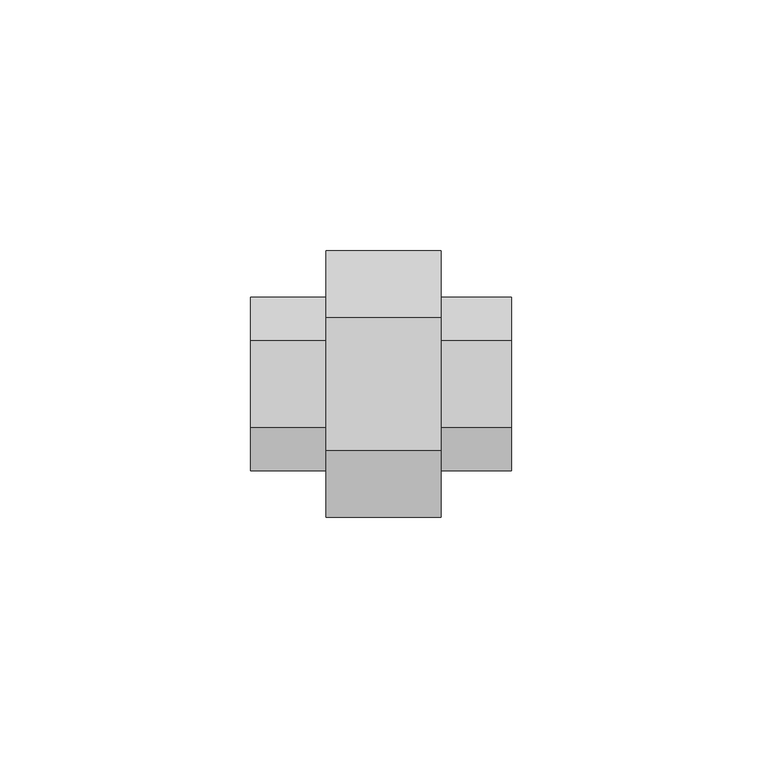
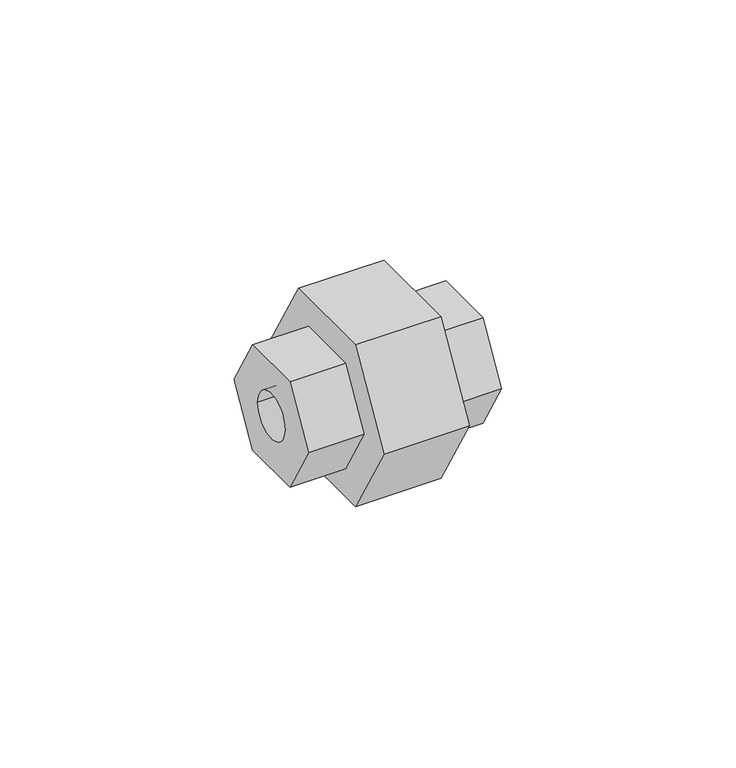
"""IFC4 building model written with IfcOpenShell, lengths in millimetres: pipe fitting geometry, 01011014 : Enlace 3 piezas."""

from ifc_helpers import new_model, si_unit, frame, origin, place, context, project, spatial, polyline, circle_curve, source, transform, mapped, element, save
from ifc_brep_helpers import plane_surface, revolved_surface, advanced_brep


def pipe_fitting_819bcc75(model_context):
    return source(origin(), model_context, "Body", "AdvancedBrep", [
        advanced_brep(
        [(14.0, -13.2790562, 23.0), (14.0, -26.5581124, 0.0), (14.0, -13.2790562, -23.0), (14.0, 13.2790562, -23.0), (14.0, 26.5581124, 0.0), (14.0, 13.2790562, 23.0), (14.0, -8.660254, 15.0), (14.0, 8.660254, 15.0), (14.0, 17.3205081, 0.0), (14.0, 8.660254, -15.0), (14.0, -8.660254, -15.0), (14.0, -17.3205081, 0.0), (-9.0, -13.2790562, 23.0), (-9.0, 13.2790562, 23.0), (-9.0, 26.5581124, 0.0), (-9.0, 13.2790562, -23.0), (-9.0, -13.2790562, -23.0), (-9.0, -26.5581124, 0.0), (-9.0, 8.660254, 15.0), (-9.0, -8.660254, 15.0), (-9.0, -17.3205081, 0.0), (-9.0, -8.660254, -15.0), (-9.0, 8.660254, -15.0), (-9.0, 17.3205081, 0.0), (-24.0, -8.660254, 15.0), (-24.0, 8.660254, 15.0), (-24.0, 17.3205081, 0.0), (-24.0, 8.660254, -15.0), (-24.0, -8.660254, -15.0), (-24.0, -17.3205081, 0.0), (-24.0, -6.35, 0.0), (-24.0, 6.35, 0.0), (28.0, -8.660254, 15.0), (28.0, -17.3205081, 0.0), (28.0, -8.660254, -15.0), (28.0, 8.660254, -15.0), (28.0, 17.3205081, 0.0), (28.0, 8.660254, 15.0), (28.0, 6.35, 0.0), (28.0, -6.35, 0.0)],
        [
            (0, 1),
            (1, 2),
            (2, 3),
            (3, 4),
            (4, 5),
            (5, 0),
            (6, 7),
            (7, 8),
            (8, 9),
            (9, 10),
            (10, 11),
            (11, 6),
            (12, 13),
            (13, 14),
            (14, 15),
            (15, 16),
            (16, 17),
            (17, 12),
            (18, 19),
            (19, 20),
            (20, 21),
            (21, 22),
            (22, 23),
            (23, 18),
            (0, 12),
            (17, 1),
            (16, 2),
            (15, 3),
            (14, 4),
            (13, 5),
            (24, 25),
            (25, 26),
            (26, 27),
            (27, 28),
            (28, 29),
            (29, 24),
            (30, 31, circle_curve(frame((-24.0, 0.0, 0.0), z_axis=(1.0, 0.0, 0.0), x_axis=(0.0, 1.0, 0.0)), 6.35)),
            (31, 30, circle_curve(frame((-24.0, 0.0, 0.0), z_axis=(1.0, 0.0, 0.0), x_axis=(0.0, 1.0, 0.0)), 6.35)),
            (32, 33),
            (33, 34),
            (34, 35),
            (35, 36),
            (36, 37),
            (37, 32),
            (38, 39, circle_curve(frame((28.0, 0.0, 0.0), z_axis=(-1.0, 0.0, 0.0), x_axis=(0.0, 1.0, 0.0)), 6.35)),
            (39, 38, circle_curve(frame((28.0, 0.0, 0.0), z_axis=(-1.0, 0.0, 0.0), x_axis=(0.0, 1.0, 0.0)), 6.35)),
            (24, 19),
            (18, 25),
            (37, 7),
            (6, 32),
            (23, 26),
            (36, 8),
            (22, 27),
            (35, 9),
            (21, 28),
            (34, 10),
            (20, 29),
            (33, 11),
            (38, 31),
            (30, 39),
        ],
        [
            plane_surface(frame((14.0, -13.2790562, 23.0), z_axis=(1.0, 0.0, 0.0), x_axis=(0.0, -0.500000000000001, -0.866025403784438))),
            plane_surface(frame((-9.0, -13.2790562, 23.0), z_axis=(-1.0, 0.0, 0.0), x_axis=(0.0, 0.500000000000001, 0.866025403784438))),
            plane_surface(frame((14.0, -13.2790562, 23.0), z_axis=(0.0, -0.866025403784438, 0.500000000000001), x_axis=(-1.0, 0.0, 0.0))),
            plane_surface(frame((14.0, -26.5581124, 0.0), z_axis=(0.0, -0.8660254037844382, -0.500000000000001), x_axis=(-1.0, 0.0, 0.0))),
            plane_surface(frame((14.0, -13.2790562, -23.0), z_axis=(0.0, 0.0, -1.0), x_axis=(-1.0, 0.0, 0.0))),
            plane_surface(frame((14.0, 13.2790562, -23.0), z_axis=(0.0, 0.8660254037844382, -0.5000000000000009), x_axis=(-1.0, 0.0, 0.0))),
            plane_surface(frame((14.0, 26.5581124, 0.0), z_axis=(0.0, 0.8660254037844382, 0.500000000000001), x_axis=(-1.0, 0.0, 0.0))),
            plane_surface(frame((14.0, 13.2790562, 23.0), z_axis=(0.0, 0.0, 1.0), x_axis=(-1.0, 0.0, 0.0))),
            plane_surface(frame((-24.0, 0.0, 0.0), z_axis=(-1.0, 0.0, 0.0), x_axis=(0.0, 0.0, 1.0))),
            plane_surface(frame((28.0, 0.0, 0.0), z_axis=(1.0, 0.0, 0.0), x_axis=(0.0, 0.0, 1.0))),
            plane_surface(frame((-24.0, -8.660254, 15.0), z_axis=(0.0, 0.0, 1.0), x_axis=(1.0, 0.0, 0.0))),
            plane_surface(frame((-24.0, 8.660254, 15.0), z_axis=(0.0, 0.866025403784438, 0.500000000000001), x_axis=(1.0, 0.0, 0.0))),
            plane_surface(frame((-24.0, 17.3205081, 0.0), z_axis=(0.0, 0.8660254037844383, -0.5000000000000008), x_axis=(1.0, 0.0, 0.0))),
            plane_surface(frame((-24.0, 8.660254, -15.0), z_axis=(0.0, 0.0, -1.0), x_axis=(1.0, 0.0, 0.0))),
            plane_surface(frame((-24.0, -8.660254, -15.0), z_axis=(0.0, -0.866025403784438, -0.500000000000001), x_axis=(1.0, 0.0, 0.0))),
            plane_surface(frame((-24.0, -17.3205081, 0.0), z_axis=(0.0, -0.8660254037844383, 0.5000000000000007), x_axis=(1.0, 0.0, 0.0))),
            revolved_surface(polyline([(28.0, 6.35, 0.0), (-24.0, 6.35, 0.0)]), (-24.0, 0.0, 0.0), (1.0, 0.0, 0.0)),
        ],
        [
            (0, [[1, 2, 3, 4, 5, 6], [7, 8, 9, 10, 11, 12]]),
            (1, [[13, 14, 15, 16, 17, 18], [19, 20, 21, 22, 23, 24]]),
            (2, [[-1, 25, -18, 26]]),
            (3, [[-2, -26, -17, 27]]),
            (4, [[-3, -27, -16, 28]]),
            (5, [[-4, -28, -15, 29]]),
            (6, [[-5, -29, -14, 30]]),
            (7, [[-6, -30, -13, -25]]),
            (8, [[31, 32, 33, 34, 35, 36], [37, 38]]),
            (9, [[39, 40, 41, 42, 43, 44], [45, 46]]),
            (10, [[-31, 47, -19, 48]]),
            (10, [[-44, 49, -7, 50]]),
            (11, [[-32, -48, -24, 51]]),
            (11, [[-43, 52, -8, -49]]),
            (12, [[-33, -51, -23, 53]]),
            (12, [[-42, 54, -9, -52]]),
            (13, [[-34, -53, -22, 55]]),
            (13, [[-41, 56, -10, -54]]),
            (14, [[-35, -55, -21, 57]]),
            (14, [[-40, 58, -11, -56]]),
            (15, [[-36, -57, -20, -47]]),
            (15, [[-39, -50, -12, -58]]),
            (16, [[59, -37, 60, -45]]),
            (16, [[-59, -46, -60, -38]]),
        ],
    ),
    ])


if __name__ == "__main__":
    model = new_model("IFC4")
    model_context = context("Model", 3, world=origin())
    ifc_project = project(units=[si_unit("LENGTHUNIT", "METRE", prefix="MILLI")], contexts=[model_context])
    site = spatial("IfcSite", under=ifc_project)
    building = spatial("IfcBuilding", under=site)
    placement = place(None, origin())
    pipe_fitting_shape = pipe_fitting_819bcc75(model_context)
    element("IfcPipeFitting", 1, ObjectType="01011014 : Enlace 3 piezas", at=placement, inside=building, context=model_context, shape_type="MappedRepresentation", body=[
        mapped(pipe_fitting_shape, transform((0.0, 0.0, 0.0), x_axis=(1.0, 0.0, 0.0), y_axis=(0.0, 1.0, 0.0), z_axis=(0.0, 0.0, 1.0))),
    ])
    save(model, "model.ifc")
